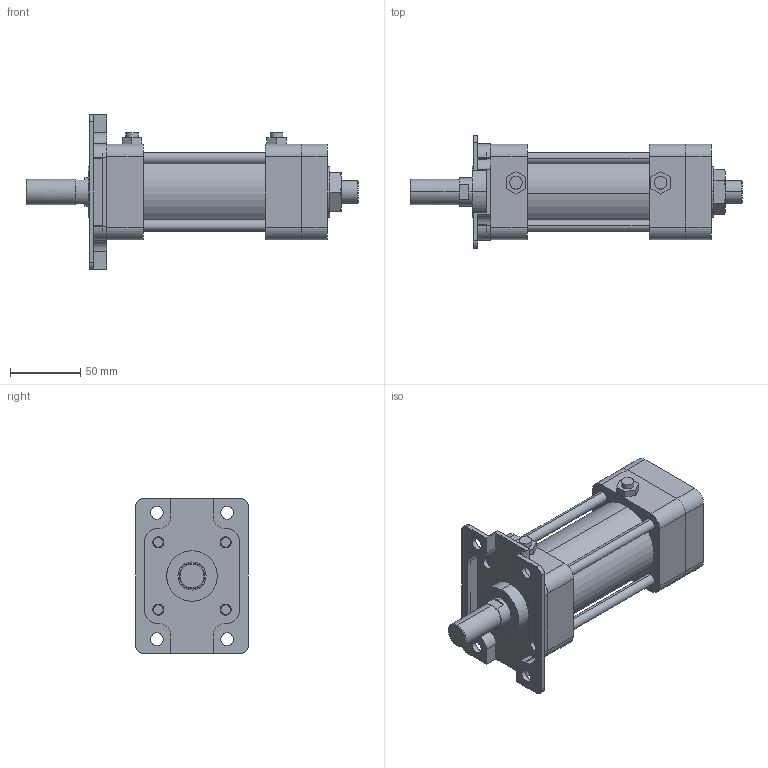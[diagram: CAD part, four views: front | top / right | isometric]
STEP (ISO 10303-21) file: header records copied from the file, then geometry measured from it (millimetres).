
FILE_DESCRIPTION (( 'STEP AP203' ), '1' );
FILE_NAME ('KGA2-50#-50-A.STEP', '2016-04-14T07:16:03', ( '' ), ( '' ), 'SwSTEP 2.0', 'SolidWorks 2014', '' );
FILE_SCHEMA (( 'CONFIG_CONTROL_DESIGN' ));
Length unit declared in the file: millimetre
Products named in the file (8): KGA2-50-After; KGA2-50#-50-A; K-50-AB; KG2-50-After; KGLH2-50-50
Assembly tree (17 placements, depth 2):
  KGA2-50#-50-A
    KG2-50-After
    KGLH2-50-50
    (unnamed)
    (unnamed)  x4
    (unnamed)  x8
    K-50-AB
    KGA2-50-After
Bounding box: 236.5 x 80 x 110 mm (x, y, z)
Volume: 548349.2 mm3; surface area: 137872.9 mm2
Topology: 17 solids, 21 shells, 432 faces, 1044 edges, 672 vertices
Faces by surface type: plane 186, cylinder 180, torus 38, cone 28
Entity records: 11772 total; most frequent: CARTESIAN_POINT 2196, DIRECTION 1844, ORIENTED_EDGE 1708, EDGE_CURVE 854, AXIS2_PLACEMENT_3D 682, VERTEX_POINT 562, VECTOR 480, LINE 480
